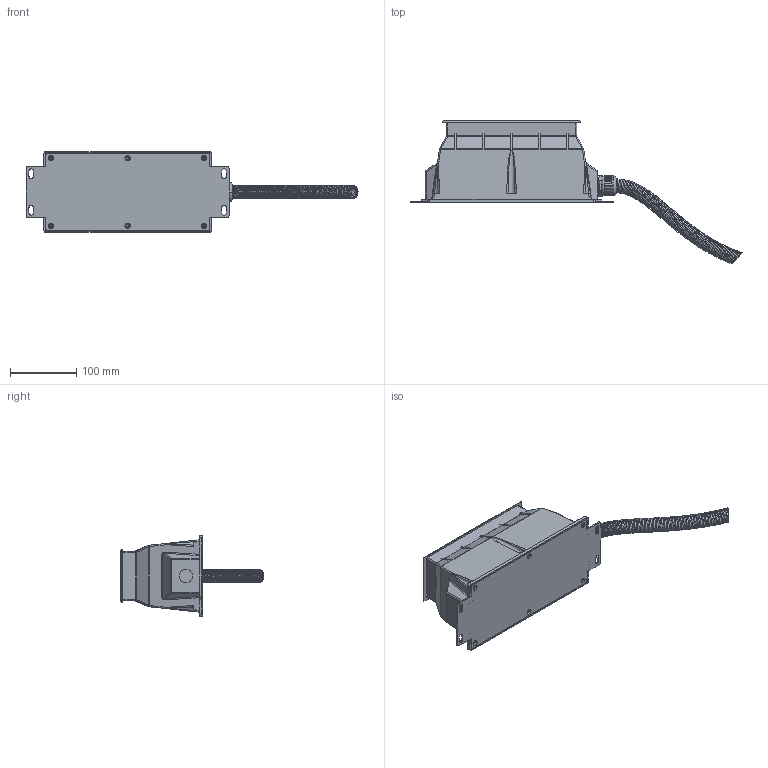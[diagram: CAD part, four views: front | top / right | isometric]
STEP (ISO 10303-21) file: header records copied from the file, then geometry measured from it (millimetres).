
FILE_DESCRIPTION((''),'2;1');
FILE_NAME('4QA-03_ASM','2023-10-16T',('Administrator'),(''),'CREO PARAMETRIC BY PTC INC, 2015200','CREO PARAMETRIC BY PTC INC, 2015200','');
FILE_SCHEMA(('CONFIG_CONTROL_DESIGN'));
Products named in the file (25): MIANGAI_178_1; CHUGUANGZHAO_173_1; HOUSING-DIE_187_1; SANREKUAI_162_1; PACKING-SILICON_125_1; 4P-1_ASM_168_ASM_1_ASM; 4PA-1-1_ASM; PG11; 4QA-GUANGYUANGBAN; 2FL-03-2020-11-3; 4QA-JIEGUANGMAO; 4QA-03-2020-11-2; M4-24_1; 4QA-03-BIBAN; _S__25______ANY; _S__29______ANY; _S__27______ANY; _S__26______ANY; PRODUCT_62766_ANY_ASM; ____-2020-10-14_ANY; 4QA-03-FSQ; PG11LUOMU; ZHIZI; M4-6; 4QA-03_ASM
Assembly tree (39 placements, depth 4):
  4QA-03_ASM
    4PA-1-1_ASM
      4P-1_ASM_168_ASM_1_ASM
        MIANGAI_178_1
        CHUGUANGZHAO_173_1
        HOUSING-DIE_187_1
        SANREKUAI_162_1
        PACKING-SILICON_125_1
    PG11
    4QA-GUANGYUANGBAN
    2FL-03-2020-11-3
    4QA-JIEGUANGMAO
    4QA-03-2020-11-2
    M4-24_1  x2
    4QA-03-BIBAN
    PRODUCT_62766_ANY_ASM
      _S__25______ANY
      _S__29______ANY
      _S__27______ANY
      _S__26______ANY
    ____-2020-10-14_ANY
    4QA-03-FSQ
    PG11LUOMU
    ZHIZI  x8
    M4-6  x8
Bounding box: 500.09 x 216.7 x 122 mm (x, y, z)
Volume: 521676.3 mm3; surface area: 489172.3 mm2
Topology: 36 solids, 36 shells, 3936 faces, 10623 edges, 6952 vertices
Faces by surface type: plane 2227, cylinder 1163, torus 202, cone 190, bspline 106, sphere 40, revolution 8
Entity records: 132014 total; most frequent: CARTESIAN_POINT 38200, ORIENTED_EDGE 20172, DIRECTION 18621, EDGE_CURVE 10086, VERTEX_POINT 6620, AXIS2_PLACEMENT_3D 6363, VECTOR 5887, LINE 5887
